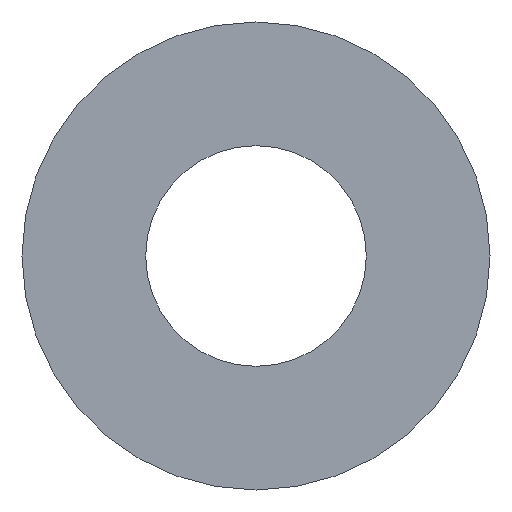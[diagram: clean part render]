
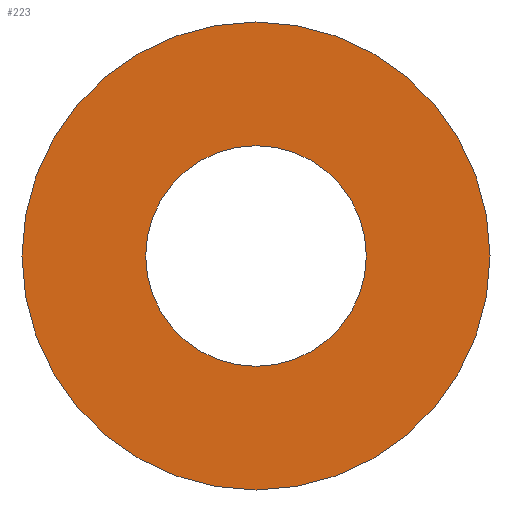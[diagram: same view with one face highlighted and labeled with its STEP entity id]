
A CAD part, front view. The second image highlights one B-rep face of the part: STEP entity #223.
In plain terms, the highlighted planar face has unit normal (0, -1, 0).
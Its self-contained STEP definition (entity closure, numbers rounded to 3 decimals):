
#84=CARTESIAN_POINT('',(-3.5,0.0,0.0));
#85=VERTEX_POINT('',#84);
#86=CARTESIAN_POINT('',(0.0,0.0,0.0));
#87=DIRECTION('',(0.0,1.0,0.0));
#88=DIRECTION('',(-1.0,0.0,0.0));
#89=AXIS2_PLACEMENT_3D('',#86,#87,#88);
#90=CIRCLE('',#89,3.5);
#91=EDGE_CURVE('',#85,#85,#90,.T.);
#204=CARTESIAN_POINT('',(-2.575,0.0,0.0));
#205=DIRECTION('',(0.0,-1.0,0.0));
#206=DIRECTION('',(0.0,0.0,-1.0));
#207=AXIS2_PLACEMENT_3D('',#204,#205,#206);
#208=PLANE('',#207);
#209=ORIENTED_EDGE('',*,*,#91,.F.);
#210=EDGE_LOOP('',(#209));
#211=FACE_OUTER_BOUND('',#210,.T.);
#212=CARTESIAN_POINT('',(-1.65,0.0,0.0));
#213=VERTEX_POINT('',#212);
#214=CARTESIAN_POINT('',(0.0,0.0,0.0));
#215=DIRECTION('',(0.0,1.0,0.0));
#216=DIRECTION('',(-1.0,0.0,0.0));
#217=AXIS2_PLACEMENT_3D('',#214,#215,#216);
#218=CIRCLE('',#217,1.65);
#219=EDGE_CURVE('',#213,#213,#218,.T.);
#220=ORIENTED_EDGE('',*,*,#219,.T.);
#221=EDGE_LOOP('',(#220));
#222=FACE_BOUND('',#221,.T.);
#223=ADVANCED_FACE('',(#211,#222),#208,.T.);
